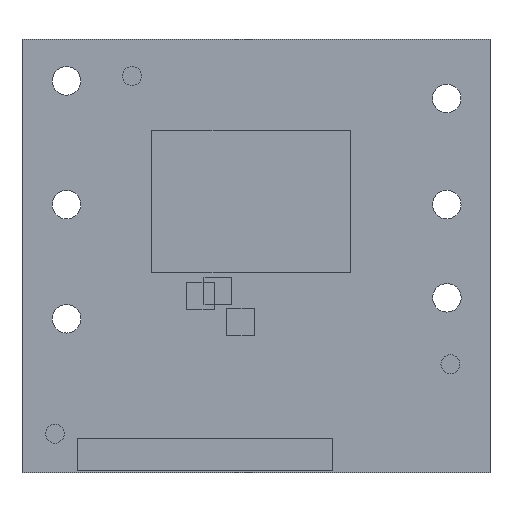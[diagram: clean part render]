
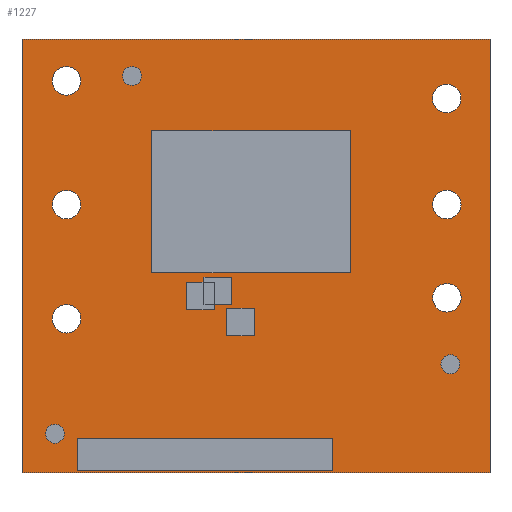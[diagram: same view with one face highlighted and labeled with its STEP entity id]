
A CAD part, top view. The second image highlights one B-rep face of the part: STEP entity #1227.
In plain terms, the highlighted planar face has unit normal (0, 0, 1).
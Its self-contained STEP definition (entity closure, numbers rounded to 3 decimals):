
#234=CIRCLE($,#923,2.5);
#235=CIRCLE($,#924,2.5);
#238=CIRCLE($,#929,2.5);
#239=CIRCLE($,#930,2.5);
#242=CIRCLE($,#935,2.5);
#243=CIRCLE($,#936,2.5);
#246=CIRCLE($,#941,2.5);
#247=CIRCLE($,#942,2.5);
#250=CIRCLE($,#947,2.5);
#251=CIRCLE($,#948,2.5);
#254=CIRCLE($,#953,2.5);
#255=CIRCLE($,#954,2.5);
#258=CIRCLE($,#959,1.7);
#259=CIRCLE($,#960,1.7);
#262=CIRCLE($,#965,1.7);
#263=CIRCLE($,#966,1.7);
#266=CIRCLE($,#971,1.7);
#267=CIRCLE($,#972,1.7);
#270=CIRCLE($,#977,1.7);
#271=CIRCLE($,#978,1.7);
#274=CIRCLE($,#983,1.2);
#275=CIRCLE($,#984,1.2);
#278=CIRCLE($,#989,1.2);
#279=CIRCLE($,#990,1.2);
#685=FACE_OUTER_BOUND($,#801,.F.);
#691=FACE_OUTER_BOUND($,#807,.T.);
#695=FACE_OUTER_BOUND($,#811,.T.);
#699=FACE_OUTER_BOUND($,#815,.T.);
#703=FACE_OUTER_BOUND($,#819,.T.);
#707=FACE_OUTER_BOUND($,#823,.T.);
#711=FACE_OUTER_BOUND($,#827,.T.);
#715=FACE_OUTER_BOUND($,#831,.T.);
#719=FACE_OUTER_BOUND($,#835,.T.);
#723=FACE_OUTER_BOUND($,#839,.T.);
#727=FACE_OUTER_BOUND($,#843,.T.);
#731=FACE_OUTER_BOUND($,#847,.T.);
#735=FACE_OUTER_BOUND($,#851,.T.);
#801=EDGE_LOOP($,(#1319,#1320,#1321,#1322));
#807=EDGE_LOOP($,(#1343,#1344));
#811=EDGE_LOOP($,(#1355,#1356));
#815=EDGE_LOOP($,(#1367,#1368));
#819=EDGE_LOOP($,(#1379,#1380));
#823=EDGE_LOOP($,(#1391,#1392));
#827=EDGE_LOOP($,(#1403,#1404));
#831=EDGE_LOOP($,(#1415,#1416));
#835=EDGE_LOOP($,(#1427,#1428));
#839=EDGE_LOOP($,(#1439,#1440));
#843=EDGE_LOOP($,(#1451,#1452));
#847=EDGE_LOOP($,(#1463,#1464));
#851=EDGE_LOOP($,(#1475,#1476));
#917=AXIS2_PLACEMENT_3D($,#2931,#2620,$);
#923=AXIS2_PLACEMENT_3D($,#2943,#2620,$);
#924=AXIS2_PLACEMENT_3D($,#2944,#2620,$);
#929=AXIS2_PLACEMENT_3D($,#2955,#2620,$);
#930=AXIS2_PLACEMENT_3D($,#2956,#2620,$);
#935=AXIS2_PLACEMENT_3D($,#2967,#2620,$);
#936=AXIS2_PLACEMENT_3D($,#2968,#2620,$);
#941=AXIS2_PLACEMENT_3D($,#2979,#2620,$);
#942=AXIS2_PLACEMENT_3D($,#2980,#2620,$);
#947=AXIS2_PLACEMENT_3D($,#2991,#2620,$);
#948=AXIS2_PLACEMENT_3D($,#2992,#2620,$);
#953=AXIS2_PLACEMENT_3D($,#3003,#2620,$);
#954=AXIS2_PLACEMENT_3D($,#3004,#2620,$);
#959=AXIS2_PLACEMENT_3D($,#3015,#2620,$);
#960=AXIS2_PLACEMENT_3D($,#3016,#2620,$);
#965=AXIS2_PLACEMENT_3D($,#3027,#2620,$);
#966=AXIS2_PLACEMENT_3D($,#3028,#2620,$);
#971=AXIS2_PLACEMENT_3D($,#3039,#2620,$);
#972=AXIS2_PLACEMENT_3D($,#3040,#2620,$);
#977=AXIS2_PLACEMENT_3D($,#3051,#2620,$);
#978=AXIS2_PLACEMENT_3D($,#3052,#2620,$);
#983=AXIS2_PLACEMENT_3D($,#3063,#2620,$);
#984=AXIS2_PLACEMENT_3D($,#3064,#2620,$);
#989=AXIS2_PLACEMENT_3D($,#3075,#2620,$);
#990=AXIS2_PLACEMENT_3D($,#3076,#2620,$);
#1163=PLANE($,#917);
#1227=ADVANCED_FACE($,(#685,#691,#695,#699,#703,#707,#711,#715,#719,#723,
#727,#731,#735),#1163,.T.);
#1319=ORIENTED_EDGE($,*,*,#1727,.T.);
#1320=ORIENTED_EDGE($,*,*,#1728,.T.);
#1321=ORIENTED_EDGE($,*,*,#1729,.T.);
#1322=ORIENTED_EDGE($,*,*,#1730,.T.);
#1343=ORIENTED_EDGE($,*,*,#1740,.T.);
#1344=ORIENTED_EDGE($,*,*,#1741,.T.);
#1355=ORIENTED_EDGE($,*,*,#1747,.T.);
#1356=ORIENTED_EDGE($,*,*,#1748,.T.);
#1367=ORIENTED_EDGE($,*,*,#1754,.T.);
#1368=ORIENTED_EDGE($,*,*,#1755,.T.);
#1379=ORIENTED_EDGE($,*,*,#1761,.T.);
#1380=ORIENTED_EDGE($,*,*,#1762,.T.);
#1391=ORIENTED_EDGE($,*,*,#1768,.T.);
#1392=ORIENTED_EDGE($,*,*,#1769,.T.);
#1403=ORIENTED_EDGE($,*,*,#1775,.T.);
#1404=ORIENTED_EDGE($,*,*,#1776,.T.);
#1415=ORIENTED_EDGE($,*,*,#1782,.T.);
#1416=ORIENTED_EDGE($,*,*,#1783,.T.);
#1427=ORIENTED_EDGE($,*,*,#1789,.T.);
#1428=ORIENTED_EDGE($,*,*,#1790,.T.);
#1439=ORIENTED_EDGE($,*,*,#1796,.T.);
#1440=ORIENTED_EDGE($,*,*,#1797,.T.);
#1451=ORIENTED_EDGE($,*,*,#1803,.T.);
#1452=ORIENTED_EDGE($,*,*,#1804,.T.);
#1463=ORIENTED_EDGE($,*,*,#1810,.T.);
#1464=ORIENTED_EDGE($,*,*,#1811,.T.);
#1475=ORIENTED_EDGE($,*,*,#1817,.T.);
#1476=ORIENTED_EDGE($,*,*,#1818,.T.);
#1727=EDGE_CURVE($,#2299,#2300,#2127,.T.);
#1728=EDGE_CURVE($,#2300,#2301,#2128,.T.);
#1729=EDGE_CURVE($,#2301,#2302,#2129,.T.);
#1730=EDGE_CURVE($,#2302,#2299,#2130,.T.);
#1740=EDGE_CURVE($,#2309,#2310,#234,.F.);
#1741=EDGE_CURVE($,#2310,#2309,#235,.F.);
#1747=EDGE_CURVE($,#2315,#2316,#238,.F.);
#1748=EDGE_CURVE($,#2316,#2315,#239,.F.);
#1754=EDGE_CURVE($,#2321,#2322,#242,.F.);
#1755=EDGE_CURVE($,#2322,#2321,#243,.F.);
#1761=EDGE_CURVE($,#2327,#2328,#246,.F.);
#1762=EDGE_CURVE($,#2328,#2327,#247,.F.);
#1768=EDGE_CURVE($,#2333,#2334,#250,.F.);
#1769=EDGE_CURVE($,#2334,#2333,#251,.F.);
#1775=EDGE_CURVE($,#2339,#2340,#254,.F.);
#1776=EDGE_CURVE($,#2340,#2339,#255,.F.);
#1782=EDGE_CURVE($,#2345,#2346,#258,.F.);
#1783=EDGE_CURVE($,#2346,#2345,#259,.F.);
#1789=EDGE_CURVE($,#2351,#2352,#262,.F.);
#1790=EDGE_CURVE($,#2352,#2351,#263,.F.);
#1796=EDGE_CURVE($,#2357,#2358,#266,.F.);
#1797=EDGE_CURVE($,#2358,#2357,#267,.F.);
#1803=EDGE_CURVE($,#2363,#2364,#270,.F.);
#1804=EDGE_CURVE($,#2364,#2363,#271,.F.);
#1810=EDGE_CURVE($,#2369,#2370,#274,.F.);
#1811=EDGE_CURVE($,#2370,#2369,#275,.F.);
#1817=EDGE_CURVE($,#2375,#2376,#278,.F.);
#1818=EDGE_CURVE($,#2376,#2375,#279,.F.);
#1955=VECTOR($,#2623,82.);
#1956=VECTOR($,#2624,76.004);
#1957=VECTOR($,#2625,82.);
#1958=VECTOR($,#2626,76.004);
#2127=LINE($,#2930,#1955);
#2128=LINE($,#2931,#1956);
#2129=LINE($,#2932,#1957);
#2130=LINE($,#2933,#1958);
#2299=VERTEX_POINT($,#2930);
#2300=VERTEX_POINT($,#2931);
#2301=VERTEX_POINT($,#2932);
#2302=VERTEX_POINT($,#2933);
#2309=VERTEX_POINT($,#2940);
#2310=VERTEX_POINT($,#2941);
#2315=VERTEX_POINT($,#2952);
#2316=VERTEX_POINT($,#2953);
#2321=VERTEX_POINT($,#2964);
#2322=VERTEX_POINT($,#2965);
#2327=VERTEX_POINT($,#2976);
#2328=VERTEX_POINT($,#2977);
#2333=VERTEX_POINT($,#2988);
#2334=VERTEX_POINT($,#2989);
#2339=VERTEX_POINT($,#3000);
#2340=VERTEX_POINT($,#3001);
#2345=VERTEX_POINT($,#3012);
#2346=VERTEX_POINT($,#3013);
#2351=VERTEX_POINT($,#3024);
#2352=VERTEX_POINT($,#3025);
#2357=VERTEX_POINT($,#3036);
#2358=VERTEX_POINT($,#3037);
#2363=VERTEX_POINT($,#3048);
#2364=VERTEX_POINT($,#3049);
#2369=VERTEX_POINT($,#3060);
#2370=VERTEX_POINT($,#3061);
#2375=VERTEX_POINT($,#3072);
#2376=VERTEX_POINT($,#3073);
#2620=DIRECTION($,(0.,0.,1.));
#2623=DIRECTION($,(-1.,0.,0.));
#2624=DIRECTION($,(0.,1.,0.));
#2625=DIRECTION($,(1.,0.,0.));
#2626=DIRECTION($,(0.,-1.,0.));
#2930=CARTESIAN_POINT('',(81.972,0.006,0.));
#2931=CARTESIAN_POINT('',(-0.028,0.006,0.));
#2932=CARTESIAN_POINT('',(-0.028,76.01,0.));
#2933=CARTESIAN_POINT('',(81.972,76.01,0.));
#2940=CARTESIAN_POINT('',(10.255,68.692,0.));
#2941=CARTESIAN_POINT('',(5.255,68.692,0.));
#2943=CARTESIAN_POINT('',(7.755,68.692,0.));
#2944=CARTESIAN_POINT('',(7.755,68.692,0.));
#2952=CARTESIAN_POINT('',(76.885,65.59,0.));
#2953=CARTESIAN_POINT('',(71.885,65.59,0.));
#2955=CARTESIAN_POINT('',(74.385,65.59,0.));
#2956=CARTESIAN_POINT('',(74.385,65.59,0.));
#2964=CARTESIAN_POINT('',(76.918,30.683,0.));
#2965=CARTESIAN_POINT('',(71.918,30.683,0.));
#2967=CARTESIAN_POINT('',(74.418,30.683,0.));
#2968=CARTESIAN_POINT('',(74.418,30.683,0.));
#2976=CARTESIAN_POINT('',(10.294,27.007,0.));
#2977=CARTESIAN_POINT('',(5.294,27.007,0.));
#2979=CARTESIAN_POINT('',(7.794,27.007,0.));
#2980=CARTESIAN_POINT('',(7.794,27.007,0.));
#2988=CARTESIAN_POINT('',(10.275,47.009,0.));
#2989=CARTESIAN_POINT('',(5.275,47.009,0.));
#2991=CARTESIAN_POINT('',(7.775,47.009,0.));
#2992=CARTESIAN_POINT('',(7.775,47.009,0.));
#3000=CARTESIAN_POINT('',(76.902,47.01,0.));
#3001=CARTESIAN_POINT('',(71.902,47.01,0.));
#3003=CARTESIAN_POINT('',(74.402,47.01,0.));
#3004=CARTESIAN_POINT('',(74.402,47.01,0.));
#3012=CARTESIAN_POINT('',(33.311,55.984,0.));
#3013=CARTESIAN_POINT('',(29.911,55.984,0.));
#3015=CARTESIAN_POINT('',(31.611,55.984,0.));
#3016=CARTESIAN_POINT('',(31.611,55.984,0.));
#3024=CARTESIAN_POINT('',(50.311,55.984,0.));
#3025=CARTESIAN_POINT('',(46.911,55.984,0.));
#3027=CARTESIAN_POINT('',(48.611,55.984,0.));
#3028=CARTESIAN_POINT('',(48.611,55.984,0.));
#3036=CARTESIAN_POINT('',(50.311,38.984,0.));
#3037=CARTESIAN_POINT('',(46.911,38.984,0.));
#3039=CARTESIAN_POINT('',(48.611,38.984,0.));
#3040=CARTESIAN_POINT('',(48.611,38.984,0.));
#3048=CARTESIAN_POINT('',(33.311,38.984,0.));
#3049=CARTESIAN_POINT('',(29.911,38.984,0.));
#3051=CARTESIAN_POINT('',(31.611,38.984,0.));
#3052=CARTESIAN_POINT('',(31.611,38.984,0.));
#3060=CARTESIAN_POINT('',(55.511,47.484,0.));
#3061=CARTESIAN_POINT('',(53.111,47.484,0.));
#3063=CARTESIAN_POINT('',(54.311,47.484,0.));
#3064=CARTESIAN_POINT('',(54.311,47.484,0.));
#3072=CARTESIAN_POINT('',(27.111,47.484,0.));
#3073=CARTESIAN_POINT('',(24.711,47.484,0.));
#3075=CARTESIAN_POINT('',(25.911,47.484,0.));
#3076=CARTESIAN_POINT('',(25.911,47.484,0.));
